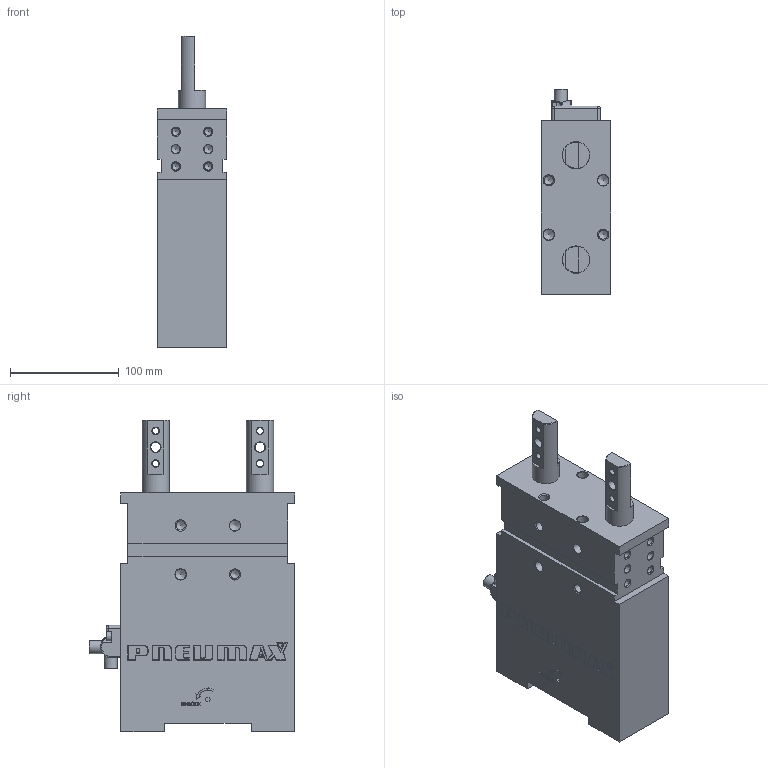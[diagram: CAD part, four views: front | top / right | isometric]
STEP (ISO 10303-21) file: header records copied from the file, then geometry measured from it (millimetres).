
FILE_DESCRIPTION(/* description */ (''),/* implementation_level */ '2;1');
FILE_NAME(/* name */ 'C:\PNX_VAULTFOLDER\Area Tecnica\Disegni\VARIE-3D\Componenti\7000\FT50######\FT50E40G52.stp',/* time_stamp */ '2021-03-31T11:07:38+02:00',/* author */ ('donadda1'),/* organization */ (''),/* preprocessor_version */ 'ST-DEVELOPER v18.1',/* originating_system */ 'Autodesk Inventor 2021',/* authorisation */ '');
FILE_SCHEMA (('AUTOMOTIVE_DESIGN { 1 0 10303 214 3 1 1 }'));
Length unit declared in the file: millimetre
Products named in the file (5): FT50E40G52; FT_Corpo1; FT_Rod; ES001; ES001_CONN_90°
Assembly tree (5 placements, depth 2):
  FT50E40G52
    FT_Corpo1
    FT_Rod  x2
    ES001
    ES001_CONN_90°
Bounding box: 64 x 189.1 x 287 mm (x, y, z)
Volume: 2202286.2 mm3; surface area: 190841.8 mm2
Topology: 5 solids, 5 shells, 908 faces, 2222 edges, 1386 vertices
Faces by surface type: plane 569, cone 148, cylinder 96, bspline 85, torus 8, sphere 2
Full cylindrical faces by diameter (mm): 4.134 x2, 5 x4, 5.489 x4, 6 x4, 6.647 x8, 8 x4, 8.376 x8, 8.5 x4, 8.566 x2, 9 x2, 10 x8, 12 x2, 15 x2, 25 x4
Entity records: 26293 total; most frequent: CARTESIAN_POINT 5695, ORIENTED_EDGE 4290, DIRECTION 3942, EDGE_CURVE 2145, LINE 1602, VECTOR 1602, VERTEX_POINT 1357, AXIS2_PLACEMENT_3D 1170
